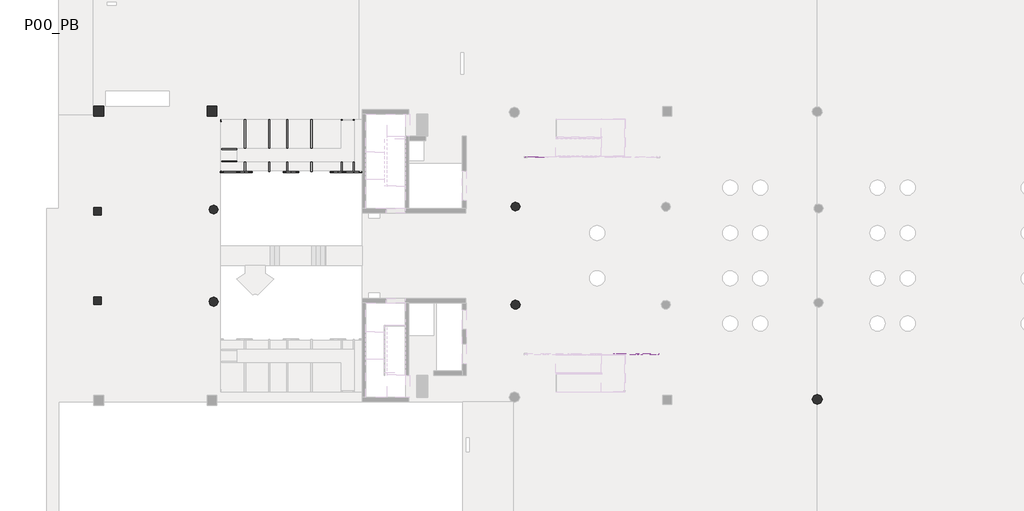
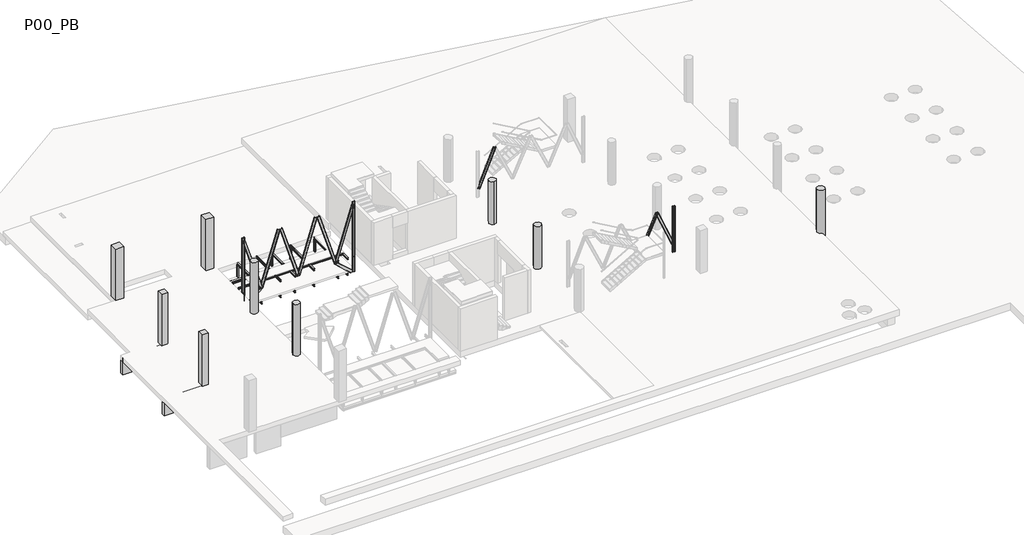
# One storey, part 4 of 7: 41 beams, 21 columns.
"""IFC4 building model written with IfcOpenShell, lengths in millimetres."""

from ifc_helpers import new_model, si_unit, point, frame, frame_2d, origin, place, context, project, spatial, polyline, circle_curve, ellipse_curve, trimmed, segment, composite_curve, outline, extrude, faceted_brep, transform, mapped, element, save
from ifc_brep_helpers import plane_surface, cylinder_surface, revolved_surface, advanced_brep
from components import ub_universal_beams_ipe_160x82_ba852ef6, ub_universal_beams_ipe_160x82_45623c42, ub_universal_beams_ipe_160x82_d60b5671, ub_universal_beams_ipe_160x82_bbe57ce0, upn120x55_8ca40f5d, upn120x55_f8c29ef0, upn120x55_6f2391d9, upn120x55_f3862d68, upn120x55_dbb17e30, upn200x75_c14da5dc, upn200x75_6adde346, upn200x75_76623e6e, upn200x75_99ddc015, upn200x75_bf5f1a6f, upn200x75_c57adbb2, upn200x75_abedd545, upn200x75_b5eab664, upn200x75_6b2373fe, ub_universal_beam_column_ipe_160x82_fe75e69f, upn_200x75_e6625032, upn_200x75_16539f99, upn_200x75_48ebdcb8

model = new_model("IFC4")

# Units and contexts
model_context = context("Model", 3, world=origin())
ifc_project = project(units=[si_unit("LENGTHUNIT", "METRE", prefix="MILLI")], contexts=[model_context])

# Site, building, storey
site = spatial("IfcSite", under=ifc_project)
building = spatial("IfcBuilding", under=site)
storey = spatial("IfcBuildingStorey", under=building, Name="P00_PB", Elevation=6330.0)

# Beams
placement = place(None, origin())
element("IfcBeam", 1, ObjectType="M_Concrete-Rectangular Beam : 300 x 1550mm", at=placement, inside=storey, context=model_context, shape_type="SweptSolid", body=[
    extrude(outline(polyline([(-23766.3067738, 1664.8960687), (-23766.3067738, 1364.8960687), (-30615.2955908, 1364.8960687), (-30615.2955908, 1664.8960687), (-23766.3067738, 1664.8960687)])), frame((0.0, 0.0, 4780.0), z_axis=(0.0, 0.0, 1.0), x_axis=(1.0, 0.0, 0.0)), (0.0, 0.0, 1.0), 1150.0),
])
element("IfcBeam", 2, ObjectType="M_Concrete-Rectangular Beam : 300 x 1550mm", at=placement, inside=storey, context=model_context, shape_type="SweptSolid", body=[
    extrude(outline(polyline([(-23766.3067738, 7614.8960687), (-23766.3067738, 7314.8960687), (-30615.2955908, 7314.8960687), (-30615.2955908, 7614.8960687), (-23766.3067738, 7614.8960687)])), frame((0.0, 0.0, 4780.0), z_axis=(0.0, 0.0, 1.0), x_axis=(1.0, 0.0, 0.0)), (0.0, 0.0, 1.0), 1150.0),
])
element("IfcBeam", 3, ObjectType="M_Concrete-Rectangular Beam : 300 x 1550mm", at=placement, inside=storey, context=model_context, shape_type="SweptSolid", body=[
    extrude(outline(polyline([(-34517.5141758, 1664.8960687), (-31415.3005496, 1664.8960687), (-31415.3005496, 1364.8960687), (-34517.5141758, 1364.8960687), (-34517.5141758, 1664.8960687)])), frame((0.0, 0.0, 4780.0), z_axis=(0.0, 0.0, 1.0), x_axis=(1.0, 0.0, 0.0)), (0.0, 0.0, 1.0), 1550.0),
])
element("IfcBeam", 4, ObjectType="M_Concrete-Rectangular Beam : 300 x 1550mm", at=placement, inside=storey, context=model_context, shape_type="SweptSolid", body=[
    extrude(outline(polyline([(-34517.5141758, 7614.8960687), (-31415.382415, 7614.8960687), (-31415.382415, 7314.8960687), (-34517.5141758, 7314.8960687), (-34517.5141758, 7614.8960687)])), frame((0.0, 0.0, 4780.0), z_axis=(0.0, 0.0, 1.0), x_axis=(1.0, 0.0, 0.0)), (0.0, 0.0, 1.0), 1550.0),
])
ub_universal_beams_ipe_160x82_shape = ub_universal_beams_ipe_160x82_ba852ef6(model_context)
element("IfcBeam", 5, ObjectType="UB-Universal Beams : IPE 160x82", at=placement, inside=storey, context=model_context, shape_type="MappedRepresentation", body=[
    mapped(ub_universal_beams_ipe_160x82_shape, transform((-14190.4459331, 11796.9860431, 4860.0), x_axis=(0.0, -1.0, 0.0), y_axis=(1.0, 0.0, 0.0), z_axis=(0.0, 0.0, 1.0))),
])
element("IfcBeam", 6, ObjectType="UB-Universal Beams : IPE 160x82", at=placement, inside=storey, context=model_context, shape_type="MappedRepresentation", body=[
    mapped(ub_universal_beams_ipe_160x82_shape, transform((-14990.4459326, 11796.9860304, 4860.0), x_axis=(0.0, -1.0, 0.0), y_axis=(1.0, 0.0, 0.0), z_axis=(0.0, 0.0, 1.0))),
])
element("IfcBeam", 7, ObjectType="UB-Universal Beams : IPE 160x82", at=placement, inside=storey, context=model_context, shape_type="MappedRepresentation", body=[
    mapped(ub_universal_beams_ipe_160x82_shape, transform((-16990.4459316, 11796.9859987, 4860.0), x_axis=(0.0, -1.0, 0.0), y_axis=(1.0, 0.0, 0.0), z_axis=(0.0, 0.0, 1.0))),
])
element("IfcBeam", 8, ObjectType="UB-Universal Beams : IPE 160x82", at=placement, inside=storey, context=model_context, shape_type="MappedRepresentation", body=[
    mapped(ub_universal_beams_ipe_160x82_shape, transform((-18590.4459308, 11796.9859733, 4860.0), x_axis=(0.0, -1.0, 0.0), y_axis=(1.0, 0.0, 0.0), z_axis=(0.0, 0.0, 1.0))),
])
element("IfcBeam", 9, ObjectType="UB-Universal Beams : IPE 160x82", at=placement, inside=storey, context=model_context, shape_type="MappedRepresentation", body=[
    mapped(ub_universal_beams_ipe_160x82_shape, transform((-19790.4459314, 11796.9859543, 4860.0), x_axis=(0.0, -1.0, 0.0), y_axis=(1.0, 0.0, 0.0), z_axis=(0.0, 0.0, 1.0))),
])
element("IfcBeam", 10, ObjectType="UB-Universal Beams : IPE 160x82", at=placement, inside=storey, context=model_context, shape_type="MappedRepresentation", body=[
    mapped(ub_universal_beams_ipe_160x82_shape, transform((-21390.4459306, 11796.985929, 4860.0), x_axis=(0.0, -1.0, 0.0), y_axis=(1.0, 0.0, 0.0), z_axis=(0.0, 0.0, 1.0))),
])
ub_universal_beams_ipe_160x82_2_shape = ub_universal_beams_ipe_160x82_45623c42(model_context)
element("IfcBeam", 11, ObjectType="UB-Universal Beams : IPE 160x82", at=placement, inside=storey, context=model_context, shape_type="MappedRepresentation", body=[
    mapped(ub_universal_beams_ipe_160x82_2_shape, transform((-22991.1860553, 11776.4859036, 4860.0), x_axis=(0.0, -1.0, 0.0), y_axis=(1.0, 0.0, 0.0), z_axis=(0.0, 0.0, 1.0))),
])
ub_universal_beams_ipe_160x82_3_shape = ub_universal_beams_ipe_160x82_d60b5671(model_context)
element("IfcBeam", 12, ObjectType="UB-Universal Beams : IPE 160x82", at=placement, inside=storey, context=model_context, shape_type="MappedRepresentation", body=[
    mapped(ub_universal_beams_ipe_160x82_3_shape, transform((-18315.7538491, 13498.4926294, 4860.0), x_axis=(1.0, 0.0, 0.0), y_axis=(0.0, 1.0, 0.0), z_axis=(0.0, 0.0, 1.0))),
])
ub_universal_beams_ipe_160x82_4_shape = ub_universal_beams_ipe_160x82_bbe57ce0(model_context)
element("IfcBeam", 13, ObjectType="UB-Universal Beams : IPE 160x82", at=placement, inside=storey, context=model_context, shape_type="MappedRepresentation", body=[
    mapped(ub_universal_beams_ipe_160x82_4_shape, transform((-14190.4459331, 11796.9860431, 6250.0), x_axis=(0.0, -1.0, 0.0), y_axis=(1.0, 0.0, 0.0), z_axis=(0.0, 0.0, 1.0))),
])
element("IfcBeam", 14, ObjectType="UB-Universal Beams : IPE 160x82", at=placement, inside=storey, context=model_context, shape_type="MappedRepresentation", body=[
    mapped(ub_universal_beams_ipe_160x82_4_shape, transform((-14990.4459326, 11796.9860304, 6250.0), x_axis=(0.0, -1.0, 0.0), y_axis=(1.0, 0.0, 0.0), z_axis=(0.0, 0.0, 1.0))),
])
element("IfcBeam", 15, ObjectType="UB-Universal Beams : IPE 160x82", at=placement, inside=storey, context=model_context, shape_type="MappedRepresentation", body=[
    mapped(ub_universal_beams_ipe_160x82_4_shape, transform((-16990.4459316, 11796.9859987, 6250.0), x_axis=(0.0, -1.0, 0.0), y_axis=(1.0, 0.0, 0.0), z_axis=(0.0, 0.0, 1.0))),
])
element("IfcBeam", 16, ObjectType="UB-Universal Beams : IPE 160x82", at=placement, inside=storey, context=model_context, shape_type="MappedRepresentation", body=[
    mapped(ub_universal_beams_ipe_160x82_4_shape, transform((-18590.4459308, 11796.9859733, 6250.0), x_axis=(0.0, -1.0, 0.0), y_axis=(1.0, 0.0, 0.0), z_axis=(0.0, 0.0, 1.0))),
])
element("IfcBeam", 17, ObjectType="UB-Universal Beams : IPE 160x82", at=placement, inside=storey, context=model_context, shape_type="MappedRepresentation", body=[
    mapped(ub_universal_beams_ipe_160x82_4_shape, transform((-19790.4459314, 11796.9859543, 6250.0), x_axis=(0.0, -1.0, 0.0), y_axis=(1.0, 0.0, 0.0), z_axis=(0.0, 0.0, 1.0))),
])
element("IfcBeam", 18, ObjectType="UB-Universal Beams : IPE 160x82", at=placement, inside=storey, context=model_context, shape_type="MappedRepresentation", body=[
    mapped(ub_universal_beams_ipe_160x82_4_shape, transform((-21390.4459306, 11796.985929, 6250.0), x_axis=(0.0, -1.0, 0.0), y_axis=(1.0, 0.0, 0.0), z_axis=(0.0, 0.0, 1.0))),
])
upn120x55_shape = upn120x55_8ca40f5d(model_context)
element("IfcBeam", 19, ObjectType="M_MC Shapes : UPN120x55", at=placement, inside=storey, context=model_context, shape_type="MappedRepresentation", body=[
    mapped(upn120x55_shape, transform((-22165.4459321, 11551.9793105, 6270.0), x_axis=(0.9999999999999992, 4.0441290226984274e-08, 0.0), y_axis=(-4.0441290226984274e-08, 0.9999999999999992, 0.0), z_axis=(0.0, 0.0, 1.0))),
])
element("IfcBeam", 20, ObjectType="M_MC Shapes : UPN120x55", at=placement, inside=storey, context=model_context, shape_type="MappedRepresentation", body=[
    mapped(upn120x55_shape, transform((-22165.4459321, 10751.9793096, 6270.0), x_axis=(0.9999999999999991, 4.319865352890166e-08, 0.0), y_axis=(-4.319865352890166e-08, 0.9999999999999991, 0.0), z_axis=(0.0, 0.0, 1.0))),
])
upn120x55_2_shape = upn120x55_f8c29ef0(model_context)
element("IfcBeam", 21, ObjectType="M_MC Shapes : UPN120x55", at=placement, inside=storey, context=model_context, shape_type="MappedRepresentation", body=[
    mapped(upn120x55_2_shape, transform((-20590.445931, 10751.9793776, 6270.0), x_axis=(0.9999999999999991, 4.319865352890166e-08, 0.0), y_axis=(-4.319865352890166e-08, 0.9999999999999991, 0.0), z_axis=(0.0, 0.0, 1.0))),
])
element("IfcBeam", 22, ObjectType="M_MC Shapes : UPN120x55", at=placement, inside=storey, context=model_context, shape_type="MappedRepresentation", body=[
    mapped(upn120x55_2_shape, transform((-17790.4459312, 10751.9794985, 6270.0), x_axis=(0.9999999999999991, 4.319865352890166e-08, 0.0), y_axis=(-4.319865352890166e-08, 0.9999999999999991, 0.0), z_axis=(0.0, 0.0, 1.0))),
])
element("IfcBeam", 23, ObjectType="M_MC Shapes : UPN120x55", at=placement, inside=storey, context=model_context, shape_type="MappedRepresentation", body=[
    mapped(upn120x55_2_shape, transform((-20590.445931, 11551.9793742, 6270.0), x_axis=(0.9999999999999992, 4.0441290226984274e-08, 0.0), y_axis=(-4.0441290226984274e-08, 0.9999999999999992, 0.0), z_axis=(0.0, 0.0, 1.0))),
])
element("IfcBeam", 24, ObjectType="M_MC Shapes : UPN120x55", at=placement, inside=storey, context=model_context, shape_type="MappedRepresentation", body=[
    mapped(upn120x55_2_shape, transform((-17790.4459312, 11551.9794874, 6270.0), x_axis=(0.9999999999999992, 4.0441290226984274e-08, 0.0), y_axis=(-4.0441290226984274e-08, 0.9999999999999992, 0.0), z_axis=(0.0, 0.0, 1.0))),
])
upn120x55_3_shape = upn120x55_6f2391d9(model_context)
element("IfcBeam", 25, ObjectType="M_MC Shapes : UPN120x55", at=placement, inside=storey, context=model_context, shape_type="MappedRepresentation", body=[
    mapped(upn120x55_3_shape, transform((-19190.4459311, 10751.9794381, 6270.0), x_axis=(0.9999999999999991, 4.319865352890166e-08, 0.0), y_axis=(-4.319865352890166e-08, 0.9999999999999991, 0.0), z_axis=(0.0, 0.0, 1.0))),
])
element("IfcBeam", 26, ObjectType="M_MC Shapes : UPN120x55", at=placement, inside=storey, context=model_context, shape_type="MappedRepresentation", body=[
    mapped(upn120x55_3_shape, transform((-19190.4459311, 11551.9794308, 6270.0), x_axis=(0.9999999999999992, 4.0441290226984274e-08, 0.0), y_axis=(-4.0441290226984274e-08, 0.9999999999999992, 0.0), z_axis=(0.0, 0.0, 1.0))),
])
upn120x55_4_shape = upn120x55_f3862d68(model_context)
element("IfcBeam", 27, ObjectType="M_MC Shapes : UPN120x55", at=placement, inside=storey, context=model_context, shape_type="MappedRepresentation", body=[
    mapped(upn120x55_4_shape, transform((-15990.4459321, 10751.9795763, 6270.0), x_axis=(0.9999999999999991, 4.319865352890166e-08, 0.0), y_axis=(-4.319865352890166e-08, 0.9999999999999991, 0.0), z_axis=(0.0, 0.0, 1.0))),
])
element("IfcBeam", 28, ObjectType="M_MC Shapes : UPN120x55", at=placement, inside=storey, context=model_context, shape_type="MappedRepresentation", body=[
    mapped(upn120x55_4_shape, transform((-15990.4459321, 11551.9795602, 6270.0), x_axis=(0.9999999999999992, 4.0441290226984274e-08, 0.0), y_axis=(-4.0441290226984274e-08, 0.9999999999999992, 0.0), z_axis=(0.0, 0.0, 1.0))),
])
upn120x55_5_shape = upn120x55_dbb17e30(model_context)
element("IfcBeam", 29, ObjectType="M_MC Shapes : UPN120x55", at=placement, inside=storey, context=model_context, shape_type="MappedRepresentation", body=[
    mapped(upn120x55_5_shape, transform((-14590.4459328, 11551.9796168, 6270.0), x_axis=(0.9999999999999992, 4.0441290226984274e-08, 0.0), y_axis=(-4.0441290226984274e-08, 0.9999999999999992, 0.0), z_axis=(0.0, 0.0, 1.0))),
])
element("IfcBeam", 30, ObjectType="M_MC Shapes : UPN120x55", at=placement, inside=storey, context=model_context, shape_type="MappedRepresentation", body=[
    mapped(upn120x55_5_shape, transform((-14590.4459328, 10751.9796368, 6270.0), x_axis=(0.9999999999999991, 4.319865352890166e-08, 0.0), y_axis=(-4.319865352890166e-08, 0.9999999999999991, 0.0), z_axis=(0.0, 0.0, 1.0))),
])
element("IfcBeam", 31, ObjectType="M_MC Shapes : UPN200x75", at=placement, inside=storey, context=model_context, shape_type="AdvancedBrep", body=[
    advanced_brep(
    [(6002.365457, -1999.8318807, 7885.64655), (6002.3654547, -2074.8318807, 7885.64655), (6001.4663123, -2074.8318807, 7885.2703388), (5997.8719986, -2071.5312579, 7883.766438), (5988.5626604, -2010.9831258, 7879.8713068), (5981.3740331, -2004.3818801, 7876.8635053), (5838.8559658, -2004.3818757, 7817.2323641), (5831.667338, -2010.983121, 7814.2245626), (5822.3579961, -2071.5312525, 7810.3294314), (5818.7636822, -2074.8318751, 7808.8255306), (5817.8645398, -2074.8318751, 7808.4493194), (5817.8645421, -1999.8318751, 7808.4493194), (4457.5086956, -1999.8318334, 11059.6915777), (4672.3717462, -1999.83184, 11064.3234872), (4457.5086933, -2074.8318334, 11059.6915777), (4458.5558018, -2074.8318334, 11059.7141507), (4462.7416089, -2071.5312108, 11059.8043862), (4473.5829294, -2010.9830793, 11060.038098), (4481.9545436, -2004.3818341, 11060.218569), (4647.9258979, -2004.3818392, 11063.7964959), (4656.2975117, -2010.9830849, 11063.9769669), (4667.1388285, -2071.5312171, 11064.2106786), (4671.3246354, -2074.8318399, 11064.3009141), (4672.3717439, -2074.83184, 11064.3234872)],
    [
        (0, 1),
        (1, 2),
        (2, 3, circle_curve(frame((6001.4663124, -2070.8818807, 7885.2703388), z_axis=(0.3859861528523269, -1.1833266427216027e-08, -0.9225045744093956), x_axis=(-3.065723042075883e-08, -0.9999999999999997, 0.0)), 3.95)),
        (3, 4),
        (4, 5, circle_curve(frame((5981.3740328, -2012.2818801, 7876.8635053), z_axis=(-0.3859861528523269, 1.1833266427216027e-08, 0.9225045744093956), x_axis=(-3.065723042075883e-08, -0.9999999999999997, 0.0)), 7.9)),
        (5, 6),
        (6, 7, circle_curve(frame((5838.8559655, -2012.2818757, 7817.2323641), z_axis=(-0.3859861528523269, 1.1833266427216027e-08, 0.9225045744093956), x_axis=(-3.065723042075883e-08, -0.9999999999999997, 0.0)), 7.9)),
        (7, 8),
        (8, 9, circle_curve(frame((5818.7636823, -2070.8818751, 7808.8255306), z_axis=(0.3859861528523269, -1.1833266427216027e-08, -0.9225045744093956), x_axis=(-3.065723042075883e-08, -0.9999999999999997, 0.0)), 3.95)),
        (9, 10),
        (10, 11),
        (11, 0),
        (12, 13),
        (13, 0),
        (11, 12),
        (14, 12),
        (10, 14),
        (15, 14),
        (9, 15),
        (16, 15, ellipse_curve(frame((4458.5558019, -2070.8818334, 11059.7141507), z_axis=(0.02155248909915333, 7.189119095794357e-12, -0.9997677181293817), x_axis=(-0.9997677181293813, 3.2348351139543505e-08, -0.021552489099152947)), 4.2445312, 3.95)),
        (8, 16),
        (7, 17),
        (17, 16),
        (18, 17, ellipse_curve(frame((4481.9545434, -2012.2818341, 11060.218569), z_axis=(-0.02155248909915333, -7.189119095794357e-12, 0.9997677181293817), x_axis=(0.9997677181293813, -3.2348351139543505e-08, 0.021552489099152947)), 8.4890624, 7.9)),
        (6, 18),
        (19, 18),
        (5, 19),
        (20, 19, ellipse_curve(frame((4647.9258976, -2012.2818392, 11063.7964959), z_axis=(-0.02155248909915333, -7.189119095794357e-12, 0.9997677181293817), x_axis=(0.9997677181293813, -3.2348351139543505e-08, 0.021552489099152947)), 8.4890624, 7.9)),
        (4, 20),
        (3, 21),
        (21, 20),
        (22, 21, ellipse_curve(frame((4671.3246355, -2070.8818399, 11064.3009141), z_axis=(0.02155248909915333, 7.189119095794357e-12, -0.9997677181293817), x_axis=(-0.9997677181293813, 3.2348351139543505e-08, -0.021552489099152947)), 4.2445312, 3.95)),
        (2, 22),
        (23, 22),
        (1, 23),
        (13, 23),
    ],
    [
        plane_surface(frame((5910.1149992, -2010.7318779, 7847.0479347), z_axis=(0.3859861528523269, -1.1833266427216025e-08, -0.9225045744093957), x_axis=(0.9225045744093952, -2.8281435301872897e-08, 0.385986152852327))),
        plane_surface(frame((4658.0914825, -1999.8318395, 11098.4532313), z_axis=(3.065723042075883e-08, 0.9999999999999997, 0.0), x_axis=(0.3859861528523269, -1.1833266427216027e-08, -0.9225045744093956))),
        plane_surface(frame((4473.5905676, -1999.8318339, 11021.2560007), z_axis=(-0.9225045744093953, 2.8281435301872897e-08, -0.3859861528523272), x_axis=(0.3859861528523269, -1.1833266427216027e-08, -0.9225045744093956))),
        plane_surface(frame((4473.5905653, -2074.8318339, 11021.2560007), z_axis=(-3.065723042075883e-08, -0.9999999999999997, 0.0), x_axis=(0.3859861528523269, -1.1833266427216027e-08, -0.9225045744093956))),
        cylinder_surface(frame((4474.4897078, -2070.8818339, 11021.6322119), z_axis=(-0.3859861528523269, 1.1833266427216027e-08, 0.9225045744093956), x_axis=(-3.065723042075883e-08, -0.9999999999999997, 0.0)), 3.95),
        plane_surface(frame((4480.8783521, -2053.3568341, 11024.3052913), z_axis=(0.9099528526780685, -0.16439933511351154, 0.38073437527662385), x_axis=(0.3859861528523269, -1.1833266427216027e-08, -0.9225045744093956))),
        revolved_surface(polyline([(5838.855965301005, -2020.181875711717, 7817.232364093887), (4480.755238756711, -2020.1818340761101, 11063.084899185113)]), (4494.581991, -2012.2818345, 11030.0390454), (0.3859861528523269, -1.1833266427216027e-08, -0.9225045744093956)),
        plane_surface(frame((4494.5819912, -2004.3818345, 11030.0390454), z_axis=(-3.065723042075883e-08, -0.9999999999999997, 0.0), x_axis=(0.3859861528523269, -1.1833266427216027e-08, -0.9225045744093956))),
        revolved_surface(polyline([(5981.374032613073, -2020.181880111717, 7876.863505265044), (4646.726593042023, -2020.1818391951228, 11066.662826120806)]), (4637.1000583, -2012.2818389, 11089.6701866), (0.3859861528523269, -1.1833266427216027e-08, -0.9225045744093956)),
        plane_surface(frame((4650.8036947, -2053.3568393, 11095.4039407), z_axis=(-0.9099528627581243, -0.1643992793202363, -0.3807343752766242), x_axis=(0.3859861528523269, -1.1833266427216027e-08, -0.9225045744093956))),
        cylinder_surface(frame((4657.1923379, -2070.8818395, 11098.0770201), z_axis=(-0.3859861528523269, 1.1833266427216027e-08, 0.9225045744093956), x_axis=(-3.065723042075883e-08, -0.9999999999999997, 0.0)), 3.95),
        plane_surface(frame((4657.1923378, -2074.8318395, 11098.0770201), z_axis=(-3.065723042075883e-08, -0.9999999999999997, 0.0), x_axis=(0.3859861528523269, -1.1833266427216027e-08, -0.9225045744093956))),
        plane_surface(frame((4658.0914802, -2074.8318395, 11098.4532313), z_axis=(0.9225045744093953, -2.8281435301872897e-08, 0.3859861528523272), x_axis=(0.3859861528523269, -1.1833266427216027e-08, -0.9225045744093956))),
        plane_surface(frame((4457.5086952, -2010.731833, 11059.6915777), z_axis=(-0.02155248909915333, -7.189119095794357e-12, 0.9997677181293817), x_axis=(0.9997677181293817, 0.0, 0.02155248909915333))),
    ],
    [
        (0, [[1, 2, 3, 4, 5, 6, 7, 8, 9, 10, 11, 12]]),
        (1, [[13, 14, -12, 15]]),
        (2, [[16, -15, -11, 17]]),
        (3, [[18, -17, -10, 19]]),
        (4, [[20, -19, -9, 21]]),
        (5, [[-21, -8, 22, 23]]),
        (6, [[24, -22, -7, 25]]),
        (7, [[26, -25, -6, 27]]),
        (8, [[28, -27, -5, 29]]),
        (9, [[-29, -4, 30, 31]]),
        (10, [[32, -30, -3, 33]]),
        (11, [[34, -33, -2, 35]]),
        (12, [[36, -35, -1, -14]]),
        (13, [[-13, -16, -18, -20, -23, -24, -26, -28, -31, -32, -34, -36]]),
    ],
),
])
element("IfcBeam", 32, ObjectType="M_MC Shapes : UPN200x75", at=placement, inside=storey, context=model_context, shape_type="AdvancedBrep", body=[
    advanced_brep(
    [(-2857.1689727, 10979.6239621, 7885.6466008), (-2857.1689704, 11054.6239621, 7885.6466008), (-2856.269828, 11054.6239621, 7885.2703896), (-2852.6755144, 11051.3233392, 7883.7664885), (-2843.3661766, 10990.7752072, 7879.8713566), (-2836.1775494, 10984.1739615, 7876.8635544), (-2693.6594868, 10984.1739571, 7817.2324022), (-2686.4708592, 10990.7752024, 7814.2246001), (-2677.1615176, 11051.3233339, 7810.3294682), (-2673.5672039, 11054.6239565, 7808.8255671), (-2672.6680615, 11054.6239565, 7808.4493559), (-2672.6680638, 10979.6239565, 7808.4493559), (-1312.3121378, 10979.6239148, 11059.6910949), (-1527.1751907, 10979.6239213, 11064.3230146), (-1312.3121355, 11054.6239148, 11059.6910948), (-1313.359244, 11054.6239148, 11059.7136679), (-1317.5450512, 11051.3232922, 11059.8039036), (-1328.3863717, 10990.7751607, 11060.0376159), (-1336.7579861, 10984.1739155, 11060.2180873), (-1502.7293421, 10984.1739206, 11063.7960222), (-1511.1009561, 10990.7751663, 11063.9764936), (-1521.9422729, 11051.3232985, 11064.2102058), (-1526.1280799, 11054.6239213, 11064.3004415), (-1527.1751884, 11054.6239213, 11064.3230146)],
    [
        (0, 1),
        (1, 2),
        (2, 3, circle_curve(frame((-2856.2698281, 11050.6739621, 7885.2703896), z_axis=(-0.3859862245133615, 1.183326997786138e-08, -0.92250454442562), x_axis=(3.065723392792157e-08, 0.9999999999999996, 0.0)), 3.95)),
        (3, 4),
        (4, 5, circle_curve(frame((-2836.1775492, 10992.0739615, 7876.8635544), z_axis=(0.3859862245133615, -1.183326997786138e-08, 0.92250454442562), x_axis=(3.065723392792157e-08, 0.9999999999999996, 0.0)), 7.9)),
        (5, 6),
        (6, 7, circle_curve(frame((-2693.6594865, 10992.0739571, 7817.2324022), z_axis=(0.3859862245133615, -1.183326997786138e-08, 0.92250454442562), x_axis=(3.065723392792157e-08, 0.9999999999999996, 0.0)), 7.9)),
        (7, 8),
        (8, 9, circle_curve(frame((-2673.567204, 11050.6739565, 7808.8255671), z_axis=(-0.3859862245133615, 1.183326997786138e-08, -0.92250454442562), x_axis=(3.065723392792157e-08, 0.9999999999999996, 0.0)), 3.95)),
        (9, 10),
        (10, 11),
        (11, 0),
        (12, 13),
        (13, 0),
        (11, 12),
        (14, 12),
        (10, 14),
        (15, 14),
        (9, 15),
        (16, 15, ellipse_curve(frame((-1313.3592441, 11050.6739148, 11059.7136679), z_axis=(-0.02155253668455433, -7.187507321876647e-12, -0.9997677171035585), x_axis=(0.9997677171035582, -3.234835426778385e-08, -0.021552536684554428)), 4.2445312, 3.95)),
        (8, 16),
        (7, 17),
        (17, 16),
        (18, 17, ellipse_curve(frame((-1336.7579858, 10992.0739155, 11060.2180873), z_axis=(0.02155253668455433, 7.187507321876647e-12, 0.9997677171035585), x_axis=(-0.9997677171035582, 3.234835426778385e-08, 0.021552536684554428)), 8.4890625, 7.9)),
        (6, 18),
        (19, 18),
        (5, 19),
        (20, 19, ellipse_curve(frame((-1502.7293419, 10992.0739206, 11063.7960222), z_axis=(0.02155253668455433, 7.187507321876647e-12, 0.9997677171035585), x_axis=(-0.9997677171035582, 3.234835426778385e-08, 0.021552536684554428)), 8.4890625, 7.9)),
        (4, 20),
        (3, 21),
        (21, 20),
        (22, 21, ellipse_curve(frame((-1526.12808, 11050.6739213, 11064.3004415), z_axis=(-0.02155253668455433, -7.187507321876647e-12, -0.9997677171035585), x_axis=(0.9997677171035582, -3.234835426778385e-08, -0.021552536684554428)), 4.2445312, 3.95)),
        (2, 22),
        (23, 22),
        (1, 23),
        (13, 23),
    ],
    [
        plane_surface(frame((-2764.9185179, 10990.5239593, 7847.0479783), z_axis=(-0.38598622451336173, 1.1833269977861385e-08, -0.92250454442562), x_axis=(-0.9225045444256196, 2.828143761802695e-08, 0.3859862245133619))),
        plane_surface(frame((-1512.8947486, 10979.6239209, 11098.4531777), z_axis=(-3.065723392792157e-08, -0.9999999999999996, 0.0), x_axis=(-0.3859862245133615, 1.183326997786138e-08, -0.92250454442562))),
        plane_surface(frame((-1328.3938397, 10979.6239153, 11021.2559327), z_axis=(0.9225045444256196, -2.8281437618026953e-08, -0.38598622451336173), x_axis=(-0.3859862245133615, 1.183326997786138e-08, -0.92250454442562))),
        plane_surface(frame((-1328.3938374, 11054.6239153, 11021.2559327), z_axis=(3.065723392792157e-08, 0.9999999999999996, 0.0), x_axis=(-0.3859862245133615, 1.183326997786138e-08, -0.92250454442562))),
        cylinder_surface(frame((-1329.2929799, 11050.6739153, 11021.632144), z_axis=(0.3859862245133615, -1.183326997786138e-08, 0.92250454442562), x_axis=(3.065723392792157e-08, 0.9999999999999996, 0.0)), 3.95),
        plane_surface(frame((-1335.681624, 11033.1489155, 11024.3052239), z_axis=(-0.9099528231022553, 0.16439933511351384, 0.38073444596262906), x_axis=(-0.3859862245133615, 1.183326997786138e-08, -0.92250454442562))),
        revolved_surface(polyline([(-2693.6594862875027, 10999.97395711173, 7817.232402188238), (-1335.5586808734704, 10999.973915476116, 11063.08441766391)]), (-1349.3852624, 10992.0739159, 11030.0389791), (-0.3859862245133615, 1.183326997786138e-08, -0.92250454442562)),
        plane_surface(frame((-1349.3852627, 10984.1739159, 11030.0389791), z_axis=(3.065723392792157e-08, 0.9999999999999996, 0.0), x_axis=(-0.3859862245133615, 1.183326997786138e-08, -0.92250454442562))),
        revolved_surface(polyline([(-2836.17754897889, 10999.973961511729, 7876.863554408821), (-1501.5300369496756, 10999.973920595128, 11066.662352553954)]), (-1491.9033251, 10992.0739203, 11089.6701313), (-0.3859862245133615, 1.183326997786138e-08, -0.92250454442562)),
        plane_surface(frame((-1505.606961, 11033.1489207, 11095.4038865), z_axis=(0.9099528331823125, 0.16439927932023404, -0.3807344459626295), x_axis=(-0.3859862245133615, 1.183326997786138e-08, -0.92250454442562))),
        cylinder_surface(frame((-1511.995604, 11050.6739209, 11098.0769664), z_axis=(0.3859862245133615, -1.183326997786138e-08, 0.92250454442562), x_axis=(3.065723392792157e-08, 0.9999999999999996, 0.0)), 3.95),
        plane_surface(frame((-1511.9956039, 11054.6239209, 11098.0769664), z_axis=(3.065723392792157e-08, 0.9999999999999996, 0.0), x_axis=(-0.3859862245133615, 1.183326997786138e-08, -0.92250454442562))),
        plane_surface(frame((-1512.8947463, 11054.6239209, 11098.4531777), z_axis=(-0.9225045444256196, 2.8281437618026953e-08, 0.38598622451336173), x_axis=(-0.3859862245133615, 1.183326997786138e-08, -0.92250454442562))),
        plane_surface(frame((-1312.3121374, 10990.5239144, 11059.6910949), z_axis=(0.02155253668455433, 7.187507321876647e-12, 0.9997677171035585), x_axis=(0.9997677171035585, 0.0, -0.02155253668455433))),
    ],
    [
        (0, [[1, 2, 3, 4, 5, 6, 7, 8, 9, 10, 11, 12]]),
        (1, [[13, 14, -12, 15]]),
        (2, [[16, -15, -11, 17]]),
        (3, [[18, -17, -10, 19]]),
        (4, [[20, -19, -9, 21]]),
        (5, [[-21, -8, 22, 23]]),
        (6, [[24, -22, -7, 25]]),
        (7, [[26, -25, -6, 27]]),
        (8, [[28, -27, -5, 29]]),
        (9, [[-29, -4, 30, 31]]),
        (10, [[32, -30, -3, 33]]),
        (11, [[34, -33, -2, 35]]),
        (12, [[36, -35, -1, -14]]),
        (13, [[-13, -16, -18, -20, -23, -24, -26, -28, -31, -32, -34, -36]]),
    ],
),
])
upn200x75_shape = upn200x75_c14da5dc(model_context)
element("IfcBeam", 33, ObjectType="M_MC Shapes : UPN200x75", at=placement, inside=storey, context=model_context, shape_type="MappedRepresentation", body=[
    mapped(upn200x75_shape, transform((-14489.2432112, 10001.2791595, 5556.0464738), x_axis=(0.7426831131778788, 1.1791233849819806e-08, -0.6696430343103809), y_axis=(-1.5876534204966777e-08, 0.9999999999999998, 0.0), z_axis=(0.6696430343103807, 1.0631610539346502e-08, 0.7426831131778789))),
])
upn200x75_2_shape = upn200x75_6adde346(model_context)
element("IfcBeam", 34, ObjectType="M_MC Shapes : UPN200x75", at=placement, inside=storey, context=model_context, shape_type="MappedRepresentation", body=[
    mapped(upn200x75_2_shape, transform((-22135.0787869, 10001.2791587, 5606.0464738), x_axis=(-0.7426831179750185, 1.1791250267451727e-08, -0.6696430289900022), y_axis=(-1.5876556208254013e-08, -1.0, 0.0), z_axis=(-0.6696430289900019, 1.0631625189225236e-08, 0.7426831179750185))),
])
upn200x75_3_shape = upn200x75_76623e6e(model_context)
element("IfcBeam", 35, ObjectType="M_MC Shapes : UPN200x75", at=placement, inside=storey, context=model_context, shape_type="MappedRepresentation", body=[
    mapped(upn200x75_3_shape, transform((-22175.0022421, 10001.2791622, 8596.0465486), x_axis=(-0.2966255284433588, 1.1791241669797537e-08, 0.9549938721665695), y_axis=(3.975126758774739e-08, 0.9999999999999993, 0.0), z_axis=(-0.9549938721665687, 3.7962216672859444e-08, -0.296625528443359))),
])
upn200x75_4_shape = upn200x75_99ddc015(model_context)
element("IfcBeam", 36, ObjectType="M_MC Shapes : UPN200x75", at=placement, inside=storey, context=model_context, shape_type="MappedRepresentation", body=[
    mapped(upn200x75_4_shape, transform((-14511.8028169, 10001.2791619, 8573.415577), x_axis=(0.2966255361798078, 1.1791242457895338e-08, 0.9549938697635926), y_axis=(3.9751275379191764e-08, -0.9999999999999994, 0.0), z_axis=(0.9549938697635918, 3.796222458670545e-08, -0.2966255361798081))),
])
upn200x75_5_shape = upn200x75_bf5f1a6f(model_context)
element("IfcBeam", 37, ObjectType="M_MC Shapes : UPN200x75", at=placement, inside=storey, context=model_context, shape_type="MappedRepresentation", body=[
    mapped(upn200x75_5_shape, transform((-15971.8420451, 10001.2791611, 8548.5552232), x_axis=(-0.2971901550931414, 1.1085027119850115e-08, 0.9548183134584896), y_axis=(3.729943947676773e-08, 0.9999999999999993, 0.0), z_axis=(-0.954818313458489, 3.561418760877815e-08, -0.2971901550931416))),
])
upn200x75_6_shape = upn200x75_c57adbb2(model_context)
element("IfcBeam", 38, ObjectType="M_MC Shapes : UPN200x75", at=placement, inside=storey, context=model_context, shape_type="MappedRepresentation", body=[
    mapped(upn200x75_6_shape, transform((-19071.5393521, 10001.2791612, 8554.915396), x_axis=(-0.2947027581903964, 1.115794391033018e-08, 0.9555889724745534), y_axis=(3.786168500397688e-08, 0.9999999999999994, 0.0), z_axis=(-0.9555889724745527, 3.618020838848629e-08, -0.2947027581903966))),
])
upn200x75_7_shape = upn200x75_abedd545(model_context)
element("IfcBeam", 39, ObjectType="M_MC Shapes : UPN200x75", at=placement, inside=storey, context=model_context, shape_type="MappedRepresentation", body=[
    mapped(upn200x75_7_shape, transform((-17606.2807675, 10001.2791611, 8548.582867), x_axis=(0.2977430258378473, 1.1108114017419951e-08, 0.9546460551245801), y_axis=(3.7307725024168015e-08, -0.9999999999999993, 0.0), z_axis=(0.9546460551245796, 3.561567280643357e-08, -0.2977430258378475))),
])
upn200x75_8_shape = upn200x75_b5eab664(model_context)
element("IfcBeam", 40, ObjectType="M_MC Shapes : UPN200x75", at=placement, inside=storey, context=model_context, shape_type="MappedRepresentation", body=[
    mapped(upn200x75_8_shape, transform((3821.5369748, -2010.7318609, 9410.0000115), x_axis=(-0.4138029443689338, -1.0554982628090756e-08, -0.9103664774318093), y_axis=(2.5507268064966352e-08, -0.9999999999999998, 0.0), z_axis=(-0.9103664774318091, -2.32209617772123e-08, 0.41380294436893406))),
])
upn200x75_9_shape = upn200x75_6b2373fe(model_context)
element("IfcBeam", 41, ObjectType="M_MC Shapes : UPN200x75", at=placement, inside=storey, context=model_context, shape_type="MappedRepresentation", body=[
    mapped(upn200x75_9_shape, transform((-20704.5677711, 10001.2791612, 8555.0888779), x_axis=(0.29817238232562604, 1.1146236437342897e-08, 0.9545120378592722), y_axis=(3.738185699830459e-08, -0.9999999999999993, 0.0), z_axis=(0.9545120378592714, 3.5681432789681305e-08, -0.2981723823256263))),
])

# Columns
element("IfcColumn", 42, ObjectType="Hormigón-Redondo-Pilar : Pilo_Rodo-Formigo-600", at=placement, inside=storey, context=model_context, shape_type="SweptSolid", body=[
    extrude(outline(composite_curve([segment(trimmed(circle_curve(frame_2d((-23466.1836479, 7539.4139797)), 300.0), [point((-23166.1836479, 7539.4139797))], [point((-23766.1836479, 7539.4139797))], False, "CARTESIAN"), True, "CONTINUOUS"), segment(trimmed(circle_curve(frame_2d((-23466.1836479, 7539.4139797)), 300.0), [point((-23766.1836479, 7539.4139797))], [point((-23166.1836479, 7539.4139797))], False, "CARTESIAN"), True, "CONTINUOUS")], self_intersect=False)), frame((0.0, 0.0, 6330.0), z_axis=(0.0, 0.0, 1.0), x_axis=(1.0, 0.0, 0.0)), (0.0, 0.0, 1.0), 4530.0),
])
element("IfcColumn", 43, ObjectType="Hormigón-Redondo-Pilar : Pilo_Rodo-Formigo-600", at=placement, inside=storey, context=model_context, shape_type="SweptSolid", body=[
    extrude(outline(composite_curve([segment(trimmed(circle_curve(frame_2d((-3491.6336986, 7739.8969263)), 300.0), [point((-3491.6336986, 7439.8969263))], [point((-3491.6336986, 8039.8969263))], False, "CARTESIAN"), True, "CONTINUOUS"), segment(trimmed(circle_curve(frame_2d((-3491.6336986, 7739.8969263)), 300.0), [point((-3491.6336986, 8039.8969263))], [point((-3491.6336986, 7439.8969263))], False, "CARTESIAN"), True, "CONTINUOUS")], self_intersect=False)), frame((0.0, 0.0, 7100.0), z_axis=(0.0, 0.0, 1.0), x_axis=(1.0, 0.0, 0.0)), (0.0, 0.0, 1.0), 3760.0),
])
element("IfcColumn", 44, ObjectType="Hormigón-Redondo-Pilar : Pilo_Rodo-Formigo-600", at=placement, inside=storey, context=model_context, shape_type="SweptSolid", body=[
    extrude(outline(composite_curve([segment(trimmed(circle_curve(frame_2d((-3491.6336734, 1239.6034814)), 300.0), [point((-3791.6336734, 1239.6034814))], [point((-3191.6336734, 1239.6034814))], False, "CARTESIAN"), True, "CONTINUOUS"), segment(trimmed(circle_curve(frame_2d((-3491.6336734, 1239.6034814)), 300.0), [point((-3191.6336734, 1239.6034814))], [point((-3791.6336734, 1239.6034814))], False, "CARTESIAN"), True, "CONTINUOUS")], self_intersect=False)), frame((0.0, 0.0, 7100.0), z_axis=(0.0, 0.0, 1.0), x_axis=(1.0, 0.0, 0.0)), (0.0, 0.0, 1.0), 3760.0),
])
element("IfcColumn", 45, ObjectType="Hormigón-Redondo-Pilar : Pilo_Rodo-Formigo-600", at=placement, inside=storey, context=model_context, shape_type="SweptSolid", body=[
    extrude(outline(composite_curve([segment(trimmed(circle_curve(frame_2d((-23466.1836429, 1439.4139973)), 300.0), [point((-23166.1836429, 1439.4139973))], [point((-23766.1836429, 1439.4139973))], False, "CARTESIAN"), True, "CONTINUOUS"), segment(trimmed(circle_curve(frame_2d((-23466.1836429, 1439.4139973)), 300.0), [point((-23766.1836429, 1439.4139973))], [point((-23166.1836429, 1439.4139973))], False, "CARTESIAN"), True, "CONTINUOUS")], self_intersect=False)), frame((0.0, 0.0, 6330.0), z_axis=(0.0, 0.0, 1.0), x_axis=(1.0, 0.0, 0.0)), (0.0, 0.0, 1.0), 4530.0),
])
element("IfcColumn", 46, ObjectType="Hormigón-Redondo-Pilar : Pilo_Rodo-Formigo-650", at=placement, inside=storey, context=model_context, shape_type="AdvancedBrep", body=[
    advanced_brep(
    [(16434.5695064, -4714.2845739, 5480.0), (16808.3355556, -5035.6050875, 5480.0), (16434.5770373, -5356.9267439, 5480.0), (16158.3355556, -5035.6050875, 10860.0), (16808.3355556, -5035.6050875, 10860.0), (16434.5695064, -4714.2845739, 6600.0), (16158.3355556, -5035.6050875, 6600.0), (16434.5770373, -5356.9267439, 6600.0)],
    [
        (0, 1, circle_curve(frame((16483.3355556, -5035.6050875, 5480.0), z_axis=(0.0, 0.0, -1.0), x_axis=(1.0, 0.0, 0.0)), 325.0)),
        (1, 2, circle_curve(frame((16483.3355556, -5035.6050875, 5480.0), z_axis=(0.0, 0.0, -1.0), x_axis=(1.0, 0.0, 0.0)), 325.0)),
        (2, 0),
        (3, 4, circle_curve(frame((16483.3355556, -5035.6050875, 10860.0), z_axis=(0.0, 0.0, -1.0), x_axis=(1.0, 0.0, 0.0)), 325.0)),
        (4, 1),
        (0, 5),
        (5, 6, circle_curve(frame((16483.3355556, -5035.6050875, 6600.0), z_axis=(0.0, 0.0, 1.0), x_axis=(1.0, 0.0, 0.0)), 325.0)),
        (6, 3),
        (4, 3, circle_curve(frame((16483.3355556, -5035.6050875, 10860.0), z_axis=(0.0, 0.0, -1.0), x_axis=(1.0, 0.0, 0.0)), 325.0)),
        (6, 7, circle_curve(frame((16483.3355556, -5035.6050875, 6600.0), z_axis=(0.0, 0.0, 1.0), x_axis=(1.0, 0.0, 0.0)), 325.0)),
        (7, 2),
        (7, 5),
    ],
    [
        plane_surface(frame((16808.3355556, -5035.6050875, 5480.0), z_axis=(0.0, 0.0, -1.0), x_axis=(0.0, -1.0, 0.0))),
        cylinder_surface(frame((16483.3355556, -5035.6050875, 5480.0), z_axis=(0.0, 0.0, 1.0), x_axis=(1.0, 0.0, 0.0)), 325.0),
        plane_surface(frame((16808.3355556, -5035.6050875, 10860.0), z_axis=(0.0, 0.0, 1.0), x_axis=(0.0, 1.0, 0.0))),
        plane_surface(frame((16434.5509715, -3132.6075252, 5480.0), z_axis=(-0.999999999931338, -1.1718535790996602e-05, 0.0), x_axis=(-1.1718535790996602e-05, 0.999999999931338, 0.0))),
        plane_surface(frame((16434.2120409, 25789.9985447, 6600.0), z_axis=(0.0, 0.0, -1.0000000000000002), x_axis=(-0.999999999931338, -1.1718535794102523e-05, 0.0))),
    ],
    [
        (0, [[1, 2, 3]]),
        (1, [[4, 5, -1, 6, 7, 8]]),
        (1, [[-5, 9, -8, 10, 11, -2]]),
        (2, [[-4, -9]]),
        (3, [[12, -6, -3, -11]]),
        (4, [[-12, -10, -7]]),
    ],
),
])
element("IfcColumn", 47, ObjectType="Concrete-Rectangular-Column : Pilar_Rectangular-Formigo-500x500", at=placement, inside=storey, context=model_context, shape_type="SweptSolid", body=[
    extrude(outline(polyline([(-31391.2254255, 1764.2340098), (-30891.2254255, 1764.2340098), (-30891.2254255, 1264.2340098), (-31391.2254255, 1264.2340098), (-31391.2254255, 1764.2340098)])), frame((0.0, 0.0, 6330.0), z_axis=(0.0, 0.0, 1.0), x_axis=(1.0, 0.0, 0.0)), (0.0, 0.0, 1.0), 4530.0),
])
element("IfcColumn", 48, ObjectType="Concrete-Rectangular-Column : Pilar_Rectangular-Formigo-500x500", at=placement, inside=storey, context=model_context, shape_type="SweptSolid", body=[
    extrude(outline(polyline([(-31391.2252528, 7664.2355092), (-30891.2252528, 7664.2355092), (-30891.2252528, 7164.2355092), (-31391.2252528, 7164.2355092), (-31391.2252528, 7664.2355092)])), frame((0.0, 0.0, 6330.0), z_axis=(0.0, 0.0, 1.0), x_axis=(1.0, 0.0, 0.0)), (0.0, 0.0, 1.0), 4530.0),
])
element("IfcColumn", 49, ObjectType="Concrete-Rectangular-Column : Pilar_Rectangular-Formigo-650x650", at=placement, inside=storey, context=model_context, shape_type="Brep", body=[
    faceted_brep([(-23891.1584617, 13739.4137827, 6330.0), (-23891.1584575, 14389.4137827, 6330.0), (-23241.1584575, 14389.4137784, 6330.0), (-23241.1584617, 13739.4137784, 6330.0), (-23891.1584617, 13739.4137827, 10860.0), (-23891.1584575, 14389.4137827, 10860.0), (-23891.1584575, 14389.4137827, 10610.0), (-23891.1584617, 13739.4137827, 10610.0), (-23241.1584575, 14389.4137784, 10860.0), (-23241.1584575, 14389.4137784, 10610.0), (-23241.1584617, 13739.4137784, 10860.0), (-23241.1584617, 13739.4137784, 10610.0)], [[[0, 1, 2, 3]], [[4, 5, 6, 1, 0, 7]], [[5, 8, 9, 2, 1, 6]], [[8, 10, 11, 3, 2, 9]], [[10, 4, 7, 0, 3, 11]], [[4, 10, 8, 5]]]),
])
element("IfcColumn", 50, ObjectType="Concrete-Rectangular-Column : Pilar_Rectangular-Formigo-650x650", at=placement, inside=storey, context=model_context, shape_type="Brep", body=[
    faceted_brep([(-31391.1998829, 14389.4137882, 6330.0), (-30741.1998829, 14389.4137882, 6330.0), (-30741.199883, 13739.4137882, 6330.0), (-31391.199883, 13739.4137882, 6330.0), (-31391.1998829, 14389.4137882, 10860.0), (-30741.1998829, 14389.4137882, 10860.0), (-30741.1998829, 14389.4137882, 10610.0), (-31391.1998829, 14389.4137882, 10610.0), (-30741.199883, 13739.4137882, 10860.0), (-30741.199883, 13739.4137882, 10610.0), (-31391.199883, 13739.4137882, 10860.0), (-31391.199883, 13739.4137882, 10610.0)], [[[0, 1, 2, 3]], [[4, 5, 6, 1, 0, 7]], [[5, 8, 9, 2, 1, 6]], [[8, 10, 11, 3, 2, 9]], [[10, 4, 7, 0, 3, 11]], [[4, 10, 8, 5]]]),
])
ub_universal_beam_column_ipe_160x82_shape = ub_universal_beam_column_ipe_160x82_fe75e69f(model_context)
element("IfcColumn", 51, ObjectType="UB-Universal Beam-Column : IPE_160x82", at=placement, inside=storey, context=model_context, shape_type="MappedRepresentation", body=[
    mapped(ub_universal_beam_column_ipe_160x82_shape, transform((-22991.1860553, 13459.4926294, 0.0), x_axis=(1.0, 0.0, 0.0), y_axis=(0.0, 1.0, 0.0), z_axis=(0.0, 0.0, 1.0))),
])
element("IfcColumn", 52, ObjectType="UB-Universal Beam-Column : IPE_160x82", at=placement, inside=storey, context=model_context, shape_type="MappedRepresentation", body=[
    mapped(ub_universal_beam_column_ipe_160x82_shape, transform((-21390.4459306, 13459.4926294, 0.0), x_axis=(1.0, 0.0, 0.0), y_axis=(0.0, 1.0, 0.0), z_axis=(0.0, 0.0, 1.0))),
])
element("IfcColumn", 53, ObjectType="UB-Universal Beam-Column : IPE_160x82", at=placement, inside=storey, context=model_context, shape_type="MappedRepresentation", body=[
    mapped(ub_universal_beam_column_ipe_160x82_shape, transform((-19790.4459314, 13459.4926294, 0.0), x_axis=(1.0, 0.0, 0.0), y_axis=(0.0, 1.0, 0.0), z_axis=(0.0, 0.0, 1.0))),
])
element("IfcColumn", 54, ObjectType="UB-Universal Beam-Column : IPE_160x82", at=placement, inside=storey, context=model_context, shape_type="MappedRepresentation", body=[
    mapped(ub_universal_beam_column_ipe_160x82_shape, transform((-18590.4459308, 13459.4926294, 0.0), x_axis=(1.0, 0.0, 0.0), y_axis=(0.0, 1.0, 0.0), z_axis=(0.0, 0.0, 1.0))),
])
element("IfcColumn", 55, ObjectType="UB-Universal Beam-Column : IPE_160x82", at=placement, inside=storey, context=model_context, shape_type="MappedRepresentation", body=[
    mapped(ub_universal_beam_column_ipe_160x82_shape, transform((-16990.4459316, 13459.4926294, 0.0), x_axis=(1.0, 0.0, 0.0), y_axis=(0.0, 1.0, 0.0), z_axis=(0.0, 0.0, 1.0))),
])
element("IfcColumn", 56, ObjectType="UB-Universal Beam-Column : IPE_160x82", at=placement, inside=storey, context=model_context, shape_type="MappedRepresentation", body=[
    mapped(ub_universal_beam_column_ipe_160x82_shape, transform((-14990.4459326, 13459.4926294, 0.0), x_axis=(1.0, 0.0, 0.0), y_axis=(0.0, 1.0, 0.0), z_axis=(0.0, 0.0, 1.0))),
])
element("IfcColumn", 57, ObjectType="UB-Universal Beam-Column : IPE_160x82", at=placement, inside=storey, context=model_context, shape_type="MappedRepresentation", body=[
    mapped(ub_universal_beam_column_ipe_160x82_shape, transform((-14190.4459331, 13459.4926294, 0.0), x_axis=(1.0, 0.0, 0.0), y_axis=(0.0, 1.0, 0.0), z_axis=(0.0, 0.0, 1.0))),
])
upn_200x75_shape = upn_200x75_e6625032(model_context)
element("IfcColumn", 58, ObjectType="M_MC Shapes-Column : UPN 200x75", at=placement, inside=storey, context=model_context, shape_type="MappedRepresentation", body=[
    mapped(upn_200x75_shape, transform((-13740.321643, 10016.7789198, 0.0), x_axis=(3.1229579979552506e-08, 0.9999999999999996, 0.0), y_axis=(-0.9999999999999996, 3.1229579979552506e-08, 0.0), z_axis=(0.0, 0.0, 1.0))),
])
element("IfcColumn", 59, ObjectType="M_MC Shapes-Column : UPN 200x75", at=placement, inside=storey, context=model_context, shape_type="MappedRepresentation", body=[
    mapped(upn_200x75_shape, transform((-22940.3175218, 10016.7789198, 0.0), x_axis=(3.1229579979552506e-08, 0.9999999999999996, 0.0), y_axis=(-0.9999999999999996, 3.1229579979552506e-08, 0.0), z_axis=(0.0, 0.0, 1.0))),
])
upn_200x75_2_shape = upn_200x75_16539f99(model_context)
element("IfcColumn", 60, ObjectType="M_MC Shapes-Column : UPN 200x75", at=placement, inside=storey, context=model_context, shape_type="MappedRepresentation", body=[
    mapped(upn_200x75_2_shape, transform((-13740.321643, 10016.7789198, 0.0), x_axis=(3.1229579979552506e-08, 0.9999999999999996, 0.0), y_axis=(-0.9999999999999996, 3.1229579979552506e-08, 0.0), z_axis=(0.0, 0.0, 1.0))),
])
element("IfcColumn", 61, ObjectType="M_MC Shapes-Column : UPN 200x75", at=placement, inside=storey, context=model_context, shape_type="MappedRepresentation", body=[
    mapped(upn_200x75_2_shape, transform((-22940.3175218, 10016.7789198, 0.0), x_axis=(3.1229579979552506e-08, 0.9999999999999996, 0.0), y_axis=(-0.9999999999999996, 3.1229579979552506e-08, 0.0), z_axis=(0.0, 0.0, 1.0))),
])
upn_200x75_3_shape = upn_200x75_48ebdcb8(model_context)
element("IfcColumn", 62, ObjectType="M_MC Shapes-Column : UPN 200x75", at=placement, inside=storey, context=model_context, shape_type="MappedRepresentation", body=[
    mapped(upn_200x75_3_shape, transform((5958.8308526, -2026.2316122, 0.0), x_axis=(-3.122957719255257e-08, -0.9999999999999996, 0.0), y_axis=(0.9999999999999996, -3.122957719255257e-08, 0.0), z_axis=(0.0, 0.0, 1.0))),
])

save(model, "model.ifc")
